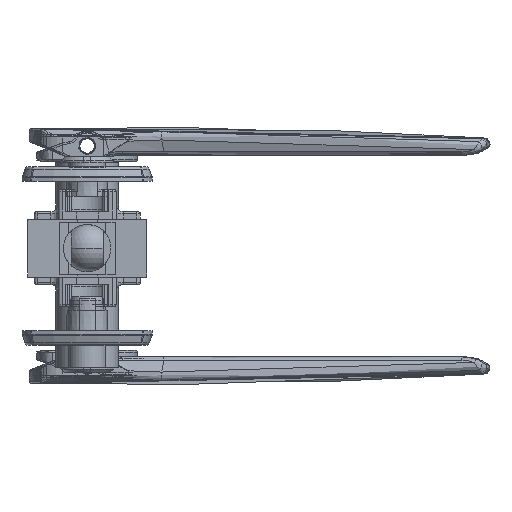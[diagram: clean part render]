
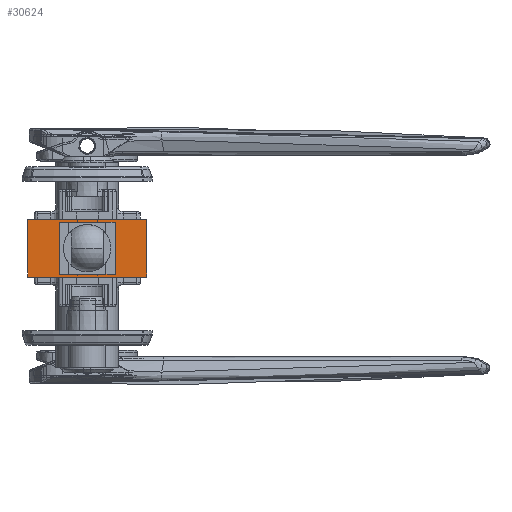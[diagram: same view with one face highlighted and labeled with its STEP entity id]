
A CAD part, front view. The second image highlights one B-rep face of the part: STEP entity #30624.
In plain terms, the highlighted planar face has unit normal (0, -1, 0).
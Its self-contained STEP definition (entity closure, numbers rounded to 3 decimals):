
#801 = CARTESIAN_POINT ( 'NONE',  ( -7., -199.25, -6.25 ) ) ;
#1252 = DIRECTION ( 'NONE',  ( 0., 0., 1. ) ) ;
#1477 = EDGE_CURVE ( 'NONE', #3607, #11268, #27810, .T. ) ;
#2400 = CARTESIAN_POINT ( 'NONE',  ( -16., -199.25, 7.75 ) ) ;
#2854 = ORIENTED_EDGE ( 'NONE', *, *, #14903, .F. ) ;
#3517 = LINE ( 'NONE', #12381, #9335 ) ;
#3601 = ORIENTED_EDGE ( 'NONE', *, *, #7156, .F. ) ;
#3607 = VERTEX_POINT ( 'NONE', #49701 ) ;
#4179 = CARTESIAN_POINT ( 'NONE',  ( 7., -199.25, -6.25 ) ) ;
#4838 = FACE_OUTER_BOUND ( 'NONE', #13168, .T. ) ;
#5475 = ORIENTED_EDGE ( 'NONE', *, *, #13036, .F. ) ;
#6467 = DIRECTION ( 'NONE',  ( 0., 0., -1. ) ) ;
#7156 = EDGE_CURVE ( 'NONE', #52502, #19345, #37575, .T. ) ;
#9335 = VECTOR ( 'NONE', #52382, 1000. ) ;
#9817 = CARTESIAN_POINT ( 'NONE',  ( -7., -199.25, -6.25 ) ) ;
#10516 = ORIENTED_EDGE ( 'NONE', *, *, #1477, .T. ) ;
#11268 = VERTEX_POINT ( 'NONE', #50808 ) ;
#12307 = VECTOR ( 'NONE', #34075, 1000. ) ;
#12381 = CARTESIAN_POINT ( 'NONE',  ( 7., -199.25, 6.25 ) ) ;
#12563 = VECTOR ( 'NONE', #1252, 1000. ) ;
#13036 = EDGE_CURVE ( 'NONE', #26299, #28258, #29714, .T. ) ;
#13168 = EDGE_LOOP ( 'NONE', ( #10516, #2854, #51733, #33448 ) ) ;
#14777 = CARTESIAN_POINT ( 'NONE',  ( -16., -199.25, 7.75 ) ) ;
#14903 = EDGE_CURVE ( 'NONE', #32534, #11268, #39655, .T. ) ;
#15870 = VECTOR ( 'NONE', #52115, 1000. ) ;
#16111 = CARTESIAN_POINT ( 'NONE',  ( -7., -199.25, -6.25 ) ) ;
#17178 = CARTESIAN_POINT ( 'NONE',  ( -16., -199.25, 7.75 ) ) ;
#17493 = CARTESIAN_POINT ( 'NONE',  ( -7., -199.25, 6.25 ) ) ;
#19149 = ORIENTED_EDGE ( 'NONE', *, *, #49878, .F. ) ;
#19345 = VERTEX_POINT ( 'NONE', #9817 ) ;
#19369 = LINE ( 'NONE', #16111, #15870 ) ;
#19453 = VECTOR ( 'NONE', #31111, 1000. ) ;
#21032 = AXIS2_PLACEMENT_3D ( 'NONE', #17178, #28749, #41626 ) ;
#23918 = LINE ( 'NONE', #40268, #44683 ) ;
#25430 = CARTESIAN_POINT ( 'NONE',  ( 7., -199.25, 6.25 ) ) ;
#26299 = VERTEX_POINT ( 'NONE', #4179 ) ;
#26591 = LINE ( 'NONE', #14777, #43298 ) ;
#27810 = LINE ( 'NONE', #48210, #49881 ) ;
#28258 = VERTEX_POINT ( 'NONE', #48225 ) ;
#28749 = DIRECTION ( 'NONE',  ( 0., 1., 0. ) ) ;
#29714 = LINE ( 'NONE', #25430, #12563 ) ;
#30286 = EDGE_CURVE ( 'NONE', #46208, #3607, #26591, .T. ) ;
#30624 = ADVANCED_FACE ( 'NONE', ( #37588, #4838 ), #45365, .F. ) ;
#31030 = ORIENTED_EDGE ( 'NONE', *, *, #39933, .F. ) ;
#31111 = DIRECTION ( 'NONE',  ( 0., 0., -1. ) ) ;
#32099 = DIRECTION ( 'NONE',  ( 1., 0., 0. ) ) ;
#32534 = VERTEX_POINT ( 'NONE', #46309 ) ;
#33448 = ORIENTED_EDGE ( 'NONE', *, *, #30286, .T. ) ;
#34075 = DIRECTION ( 'NONE',  ( 0., 0., -1. ) ) ;
#37575 = LINE ( 'NONE', #801, #12307 ) ;
#37588 = FACE_BOUND ( 'NONE', #48513, .T. ) ;
#39655 = LINE ( 'NONE', #39917, #19453 ) ;
#39917 = CARTESIAN_POINT ( 'NONE',  ( 16., -199.25, 7.75 ) ) ;
#39933 = EDGE_CURVE ( 'NONE', #28258, #52502, #3517, .T. ) ;
#40268 = CARTESIAN_POINT ( 'NONE',  ( -16., -199.25, 7.75 ) ) ;
#41626 = DIRECTION ( 'NONE',  ( 0., 0., 1. ) ) ;
#43077 = EDGE_CURVE ( 'NONE', #46208, #32534, #23918, .T. ) ;
#43298 = VECTOR ( 'NONE', #6467, 1000. ) ;
#44683 = VECTOR ( 'NONE', #45119, 1000. ) ;
#45119 = DIRECTION ( 'NONE',  ( 1., 0., 0. ) ) ;
#45365 = PLANE ( 'NONE',  #21032 ) ;
#46208 = VERTEX_POINT ( 'NONE', #2400 ) ;
#46309 = CARTESIAN_POINT ( 'NONE',  ( 16., -199.25, 7.75 ) ) ;
#48210 = CARTESIAN_POINT ( 'NONE',  ( -16., -199.25, -7.75 ) ) ;
#48225 = CARTESIAN_POINT ( 'NONE',  ( 7., -199.25, 6.25 ) ) ;
#48513 = EDGE_LOOP ( 'NONE', ( #3601, #31030, #5475, #19149 ) ) ;
#49701 = CARTESIAN_POINT ( 'NONE',  ( -16., -199.25, -7.75 ) ) ;
#49878 = EDGE_CURVE ( 'NONE', #19345, #26299, #19369, .T. ) ;
#49881 = VECTOR ( 'NONE', #32099, 1000. ) ;
#50808 = CARTESIAN_POINT ( 'NONE',  ( 16., -199.25, -7.75 ) ) ;
#51733 = ORIENTED_EDGE ( 'NONE', *, *, #43077, .F. ) ;
#52115 = DIRECTION ( 'NONE',  ( 1., 0., 0. ) ) ;
#52382 = DIRECTION ( 'NONE',  ( -1., 0., 0. ) ) ;
#52502 = VERTEX_POINT ( 'NONE', #17493 ) ;
